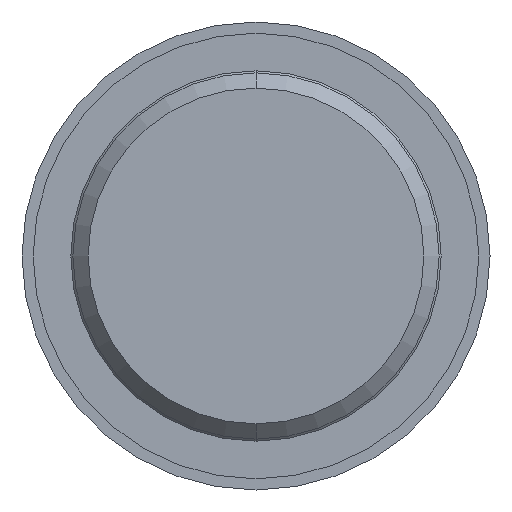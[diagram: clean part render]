
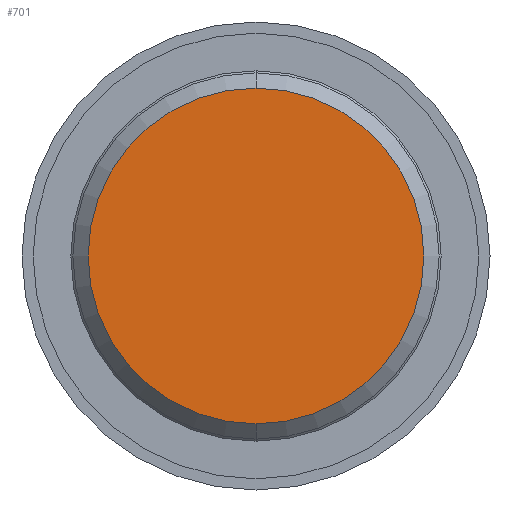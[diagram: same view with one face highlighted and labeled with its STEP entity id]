
A CAD part, front view. The second image highlights one B-rep face of the part: STEP entity #701.
In plain terms, the highlighted planar face has unit normal (0, -1, 0).
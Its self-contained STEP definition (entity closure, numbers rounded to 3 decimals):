
#7 = PLANE ( 'NONE',  #928 ) ;
#75 = DIRECTION ( 'NONE',  ( 0., 0., 1. ) ) ;
#217 = CIRCLE ( 'NONE', #663, 8.25 ) ;
#222 = VERTEX_POINT ( 'NONE', #588 ) ;
#226 = DIRECTION ( 'NONE',  ( 0., 0., 1. ) ) ;
#238 = CARTESIAN_POINT ( 'NONE',  ( 0., 0., 0. ) ) ;
#268 = EDGE_LOOP ( 'NONE', ( #775, #433 ) ) ;
#299 = EDGE_CURVE ( 'NONE', #307, #222, #425, .T. ) ;
#307 = VERTEX_POINT ( 'NONE', #533 ) ;
#369 = EDGE_CURVE ( 'NONE', #222, #307, #217, .T. ) ;
#371 = DIRECTION ( 'NONE',  ( 0., 1., 0. ) ) ;
#425 = CIRCLE ( 'NONE', #864, 8.25 ) ;
#433 = ORIENTED_EDGE ( 'NONE', *, *, #369, .F. ) ;
#463 = DIRECTION ( 'NONE',  ( 0., 1., 0. ) ) ;
#528 = CARTESIAN_POINT ( 'NONE',  ( 0., 0., 0. ) ) ;
#533 = CARTESIAN_POINT ( 'NONE',  ( 0., 0., 8.25 ) ) ;
#588 = CARTESIAN_POINT ( 'NONE',  ( 0., 0., -8.25 ) ) ;
#663 = AXIS2_PLACEMENT_3D ( 'NONE', #528, #371, #75 ) ;
#701 = ADVANCED_FACE ( 'NONE', ( #913 ), #7, .F. ) ;
#750 = DIRECTION ( 'NONE',  ( 0., 1., 0. ) ) ;
#775 = ORIENTED_EDGE ( 'NONE', *, *, #299, .F. ) ;
#823 = CARTESIAN_POINT ( 'NONE',  ( 8.25, 0., 0. ) ) ;
#826 = DIRECTION ( 'NONE',  ( 0., 0., 1. ) ) ;
#864 = AXIS2_PLACEMENT_3D ( 'NONE', #238, #750, #226 ) ;
#913 = FACE_OUTER_BOUND ( 'NONE', #268, .T. ) ;
#928 = AXIS2_PLACEMENT_3D ( 'NONE', #823, #463, #826 ) ;
